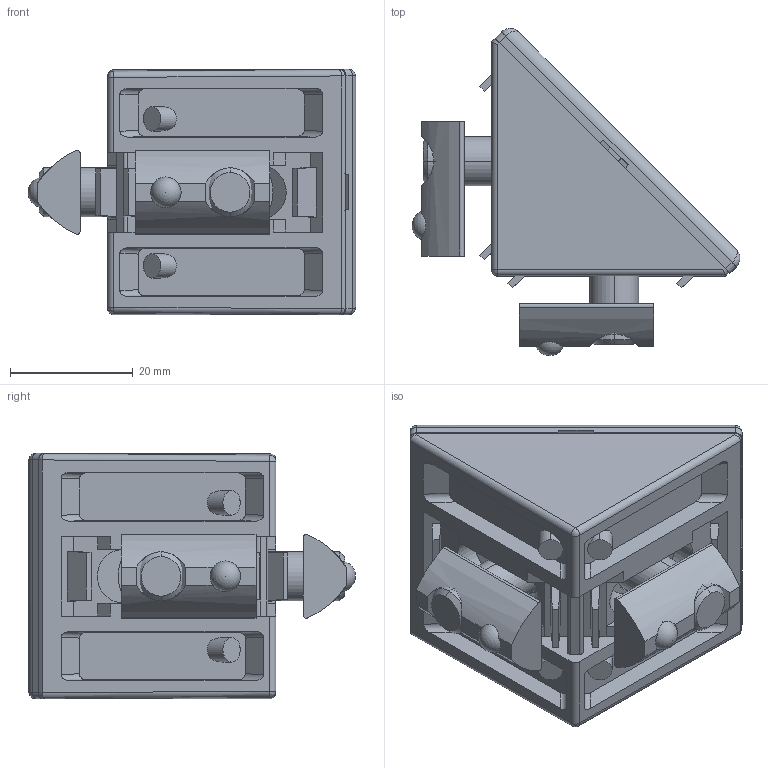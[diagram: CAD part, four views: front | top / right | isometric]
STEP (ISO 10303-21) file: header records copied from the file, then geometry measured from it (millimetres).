
FILE_DESCRIPTION (( 'STEP AP214' ), '1' );
FILE_NAME ('50156_WINSTZ4040ZN.STEP', '2016-11-28T10:00:43', ( '' ), ( '' ), 'SwSTEP 2.0', 'SolidWorks 2016', '' );
FILE_SCHEMA (( 'AUTOMOTIVE_DESIGN' ));
Length unit declared in the file: millimetre
Products named in the file (6): 10356-01-0000-00_nutenstein m8; 50156_abdeckkappe; 50156_WINSTZ4040ZN; 50156_grundteil; 10226-01-0000-00_sks m8; 10487-01-0000-00_sicherungsscheibem8
Assembly tree (8 placements, depth 2):
  50156_WINSTZ4040ZN
    50156_grundteil
    10487-01-0000-00_sicherungsscheibem8  x2
    10226-01-0000-00_sks m8  x2
    50156_abdeckkappe
    10356-01-0000-00_nutenstein m8  x2
Bounding box: 53.54 x 53.4 x 40.1 mm (x, y, z)
Volume: 24917 mm3; surface area: 19321.5 mm2
Topology: 10 solids, 10 shells, 329 faces, 848 edges, 546 vertices
Faces by surface type: plane 192, cylinder 99, cone 18, bspline 8, torus 8, sphere 4
Entity records: 12006 total; most frequent: CARTESIAN_POINT 2470, ORIENTED_EDGE 1456, DIRECTION 1300, EDGE_CURVE 728, VECTOR 500, LINE 500, VERTEX_POINT 472, AXIS2_PLACEMENT_3D 400
